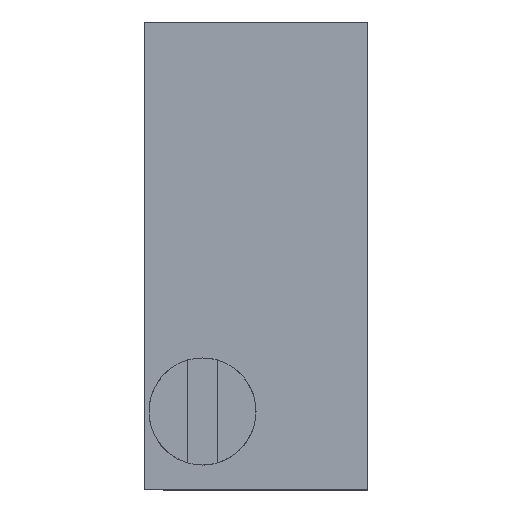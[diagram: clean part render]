
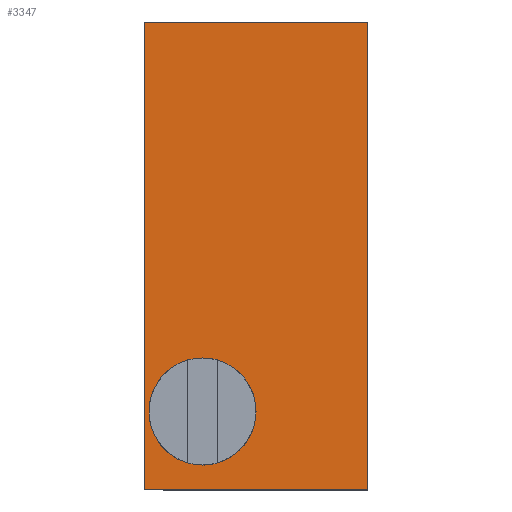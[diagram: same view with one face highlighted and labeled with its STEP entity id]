
A CAD part, top view. The second image highlights one B-rep face of the part: STEP entity #3347.
In plain terms, the highlighted planar face has unit normal (0, 0, 1).
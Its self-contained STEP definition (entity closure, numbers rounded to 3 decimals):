
#39=CIRCLE('',#3498,1.1);
#381=ORIENTED_EDGE('',*,*,#1099,.F.);
#382=ORIENTED_EDGE('',*,*,#1100,.F.);
#383=ORIENTED_EDGE('',*,*,#1095,.F.);
#384=ORIENTED_EDGE('',*,*,#1101,.T.);
#385=ORIENTED_EDGE('',*,*,#980,.T.);
#980=EDGE_CURVE('',#1342,#1340,#1584,.T.);
#1095=EDGE_CURVE('',#1453,#1454,#1604,.T.);
#1099=EDGE_CURVE('',#1456,#1456,#39,.T.);
#1100=EDGE_CURVE('',#1454,#1340,#1608,.T.);
#1101=EDGE_CURVE('',#1453,#1342,#1609,.T.);
#1340=VERTEX_POINT('',#4060);
#1342=VERTEX_POINT('',#4063);
#1453=VERTEX_POINT('',#4615);
#1454=VERTEX_POINT('',#4617);
#1456=VERTEX_POINT('',#4624);
#1584=LINE('',#4062,#1726);
#1604=LINE('',#4616,#1746);
#1608=LINE('',#4625,#1750);
#1609=LINE('',#4626,#1751);
#1726=VECTOR('',#3636,1000.);
#1746=VECTOR('',#3668,1000.);
#1750=VECTOR('',#3676,1000.);
#1751=VECTOR('',#3677,1000.);
#1886=EDGE_LOOP('',(#381));
#1887=EDGE_LOOP('',(#382,#383,#384,#385));
#2054=FACE_BOUND('',#1886,.T.);
#2055=FACE_BOUND('',#1887,.T.);
#2209=PLANE('',#3497);
#3347=ADVANCED_FACE('',(#2054,#2055),#2209,.T.);
#3497=AXIS2_PLACEMENT_3D('',#4622,#3672,#3673);
#3498=AXIS2_PLACEMENT_3D('',#4623,#3674,#3675);
#3636=DIRECTION('',(0.,-1.,0.));
#3668=DIRECTION('',(0.,-1.,0.));
#3672=DIRECTION('',(0.,0.,1.));
#3673=DIRECTION('',(1.,0.,0.));
#3674=DIRECTION('',(0.,0.,1.));
#3675=DIRECTION('',(1.,0.,0.));
#3676=DIRECTION('',(-1.,0.,0.));
#3677=DIRECTION('',(-1.,0.,0.));
#4060=CARTESIAN_POINT('',(-2.3,0.,4.85));
#4062=CARTESIAN_POINT('',(-2.3,9.6,4.85));
#4063=CARTESIAN_POINT('',(-2.3,9.6,4.85));
#4615=CARTESIAN_POINT('',(2.3,9.6,4.85));
#4616=CARTESIAN_POINT('',(2.3,9.6,4.85));
#4617=CARTESIAN_POINT('',(2.3,0.,4.85));
#4622=CARTESIAN_POINT('',(2.3,9.6,4.85));
#4623=CARTESIAN_POINT('',(-1.1,1.595,4.85));
#4624=CARTESIAN_POINT('',(0.,1.595,4.85));
#4625=CARTESIAN_POINT('',(2.3,0.,4.85));
#4626=CARTESIAN_POINT('',(2.3,9.6,4.85));
